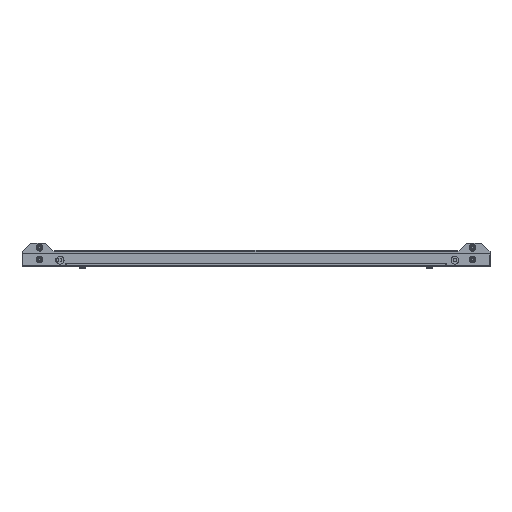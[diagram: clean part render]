
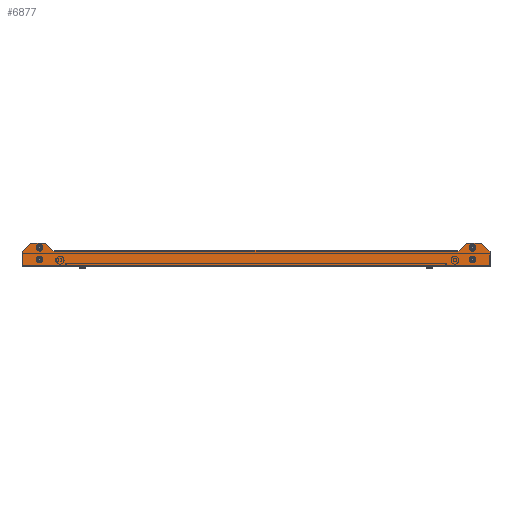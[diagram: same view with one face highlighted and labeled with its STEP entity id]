
A CAD part, front view. The second image highlights one B-rep face of the part: STEP entity #6877.
In plain terms, the highlighted planar face has unit normal (0, -1, 0).
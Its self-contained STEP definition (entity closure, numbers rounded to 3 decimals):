
#6841 = EDGE_CURVE('',#6842,#6844,#6846,.T.);
#6842 = VERTEX_POINT('',#6843);
#6843 = CARTESIAN_POINT('',(-500.,-2.5,3.5));
#6844 = VERTEX_POINT('',#6845);
#6845 = CARTESIAN_POINT('',(-500.,-2.5,31.5));
#6846 = LINE('',#6847,#6848);
#6847 = CARTESIAN_POINT('',(-500.,-2.5,0.));
#6848 = VECTOR('',#6849,1.);
#6849 = DIRECTION('',(0.,0.,1.));
#6877 = ADVANCED_FACE('',(#6878,#6889,#6900,#6911,#6922),#7043,.F.);
#6878 = FACE_BOUND('',#6879,.T.);
#6879 = EDGE_LOOP('',(#6880));
#6880 = ORIENTED_EDGE('',*,*,#6881,.F.);
#6881 = EDGE_CURVE('',#6882,#6882,#6884,.T.);
#6882 = VERTEX_POINT('',#6883);
#6883 = CARTESIAN_POINT('',(462.5,-2.5,44.75));
#6884 = CIRCLE('',#6885,4.75);
#6885 = AXIS2_PLACEMENT_3D('',#6886,#6887,#6888);
#6886 = CARTESIAN_POINT('',(462.5,-2.5,40.));
#6887 = DIRECTION('',(0.,-1.,0.));
#6888 = DIRECTION('',(0.,0.,1.));
#6889 = FACE_BOUND('',#6890,.T.);
#6890 = EDGE_LOOP('',(#6891));
#6891 = ORIENTED_EDGE('',*,*,#6892,.F.);
#6892 = EDGE_CURVE('',#6893,#6893,#6895,.T.);
#6893 = VERTEX_POINT('',#6894);
#6894 = CARTESIAN_POINT('',(462.5,-2.5,19.75));
#6895 = CIRCLE('',#6896,4.75);
#6896 = AXIS2_PLACEMENT_3D('',#6897,#6898,#6899);
#6897 = CARTESIAN_POINT('',(462.5,-2.5,15.));
#6898 = DIRECTION('',(0.,-1.,0.));
#6899 = DIRECTION('',(0.,0.,1.));
#6900 = FACE_BOUND('',#6901,.T.);
#6901 = EDGE_LOOP('',(#6902));
#6902 = ORIENTED_EDGE('',*,*,#6903,.F.);
#6903 = EDGE_CURVE('',#6904,#6904,#6906,.T.);
#6904 = VERTEX_POINT('',#6905);
#6905 = CARTESIAN_POINT('',(-462.5,-2.5,19.75));
#6906 = CIRCLE('',#6907,4.75);
#6907 = AXIS2_PLACEMENT_3D('',#6908,#6909,#6910);
#6908 = CARTESIAN_POINT('',(-462.5,-2.5,15.));
#6909 = DIRECTION('',(0.,-1.,0.));
#6910 = DIRECTION('',(0.,0.,1.));
#6911 = FACE_BOUND('',#6912,.T.);
#6912 = EDGE_LOOP('',(#6913));
#6913 = ORIENTED_EDGE('',*,*,#6914,.F.);
#6914 = EDGE_CURVE('',#6915,#6915,#6917,.T.);
#6915 = VERTEX_POINT('',#6916);
#6916 = CARTESIAN_POINT('',(-462.5,-2.5,44.75));
#6917 = CIRCLE('',#6918,4.75);
#6918 = AXIS2_PLACEMENT_3D('',#6919,#6920,#6921);
#6919 = CARTESIAN_POINT('',(-462.5,-2.5,40.));
#6920 = DIRECTION('',(0.,-1.,0.));
#6921 = DIRECTION('',(0.,0.,1.));
#6922 = FACE_BOUND('',#6923,.T.);
#6923 = EDGE_LOOP('',(#6924,#6934,#6942,#6950,#6958,#6966,#6974,#6982,
    #6990,#6998,#7006,#7014,#7020,#7021,#7029,#7037));
#6924 = ORIENTED_EDGE('',*,*,#6925,.F.);
#6925 = EDGE_CURVE('',#6926,#6928,#6930,.T.);
#6926 = VERTEX_POINT('',#6927);
#6927 = CARTESIAN_POINT('',(500.,-2.5,31.5));
#6928 = VERTEX_POINT('',#6929);
#6929 = CARTESIAN_POINT('',(500.,-2.5,3.5));
#6930 = LINE('',#6931,#6932);
#6931 = CARTESIAN_POINT('',(500.,-2.5,0.));
#6932 = VECTOR('',#6933,1.);
#6933 = DIRECTION('',(-0.,-0.,-1.));
#6934 = ORIENTED_EDGE('',*,*,#6935,.T.);
#6935 = EDGE_CURVE('',#6926,#6936,#6938,.T.);
#6936 = VERTEX_POINT('',#6937);
#6937 = CARTESIAN_POINT('',(481.5,-2.5,50.));
#6938 = LINE('',#6939,#6940);
#6939 = CARTESIAN_POINT('',(481.5,-2.5,50.));
#6940 = VECTOR('',#6941,1.);
#6941 = DIRECTION('',(-0.707,-0.,0.707));
#6942 = ORIENTED_EDGE('',*,*,#6943,.F.);
#6943 = EDGE_CURVE('',#6944,#6936,#6946,.T.);
#6944 = VERTEX_POINT('',#6945);
#6945 = CARTESIAN_POINT('',(450.,-2.5,50.));
#6946 = LINE('',#6947,#6948);
#6947 = CARTESIAN_POINT('',(500.,-2.5,50.));
#6948 = VECTOR('',#6949,1.);
#6949 = DIRECTION('',(1.,-0.,0.));
#6950 = ORIENTED_EDGE('',*,*,#6951,.T.);
#6951 = EDGE_CURVE('',#6944,#6952,#6954,.T.);
#6952 = VERTEX_POINT('',#6953);
#6953 = CARTESIAN_POINT('',(431.5,-2.5,31.5));
#6954 = LINE('',#6955,#6956);
#6955 = CARTESIAN_POINT('',(200.,-2.5,-200.));
#6956 = VECTOR('',#6957,1.);
#6957 = DIRECTION('',(-0.707,0.,-0.707));
#6958 = ORIENTED_EDGE('',*,*,#6959,.F.);
#6959 = EDGE_CURVE('',#6960,#6952,#6962,.T.);
#6960 = VERTEX_POINT('',#6961);
#6961 = CARTESIAN_POINT('',(430.,-2.5,31.5));
#6962 = LINE('',#6963,#6964);
#6963 = CARTESIAN_POINT('',(-450.,-2.5,31.5));
#6964 = VECTOR('',#6965,1.);
#6965 = DIRECTION('',(1.,0.,0.));
#6966 = ORIENTED_EDGE('',*,*,#6967,.T.);
#6967 = EDGE_CURVE('',#6960,#6968,#6970,.T.);
#6968 = VERTEX_POINT('',#6969);
#6969 = CARTESIAN_POINT('',(430.,-2.5,35.));
#6970 = LINE('',#6971,#6972);
#6971 = CARTESIAN_POINT('',(430.,-2.5,31.5));
#6972 = VECTOR('',#6973,1.);
#6973 = DIRECTION('',(-0.,-0.,1.));
#6974 = ORIENTED_EDGE('',*,*,#6975,.F.);
#6975 = EDGE_CURVE('',#6976,#6968,#6978,.T.);
#6976 = VERTEX_POINT('',#6977);
#6977 = CARTESIAN_POINT('',(-430.,-2.5,35.));
#6978 = LINE('',#6979,#6980);
#6979 = CARTESIAN_POINT('',(0.,-2.5,35.));
#6980 = VECTOR('',#6981,1.);
#6981 = DIRECTION('',(1.,-0.,-0.));
#6982 = ORIENTED_EDGE('',*,*,#6983,.F.);
#6983 = EDGE_CURVE('',#6984,#6976,#6986,.T.);
#6984 = VERTEX_POINT('',#6985);
#6985 = CARTESIAN_POINT('',(-430.,-2.5,31.5));
#6986 = LINE('',#6987,#6988);
#6987 = CARTESIAN_POINT('',(-430.,-2.5,0.));
#6988 = VECTOR('',#6989,1.);
#6989 = DIRECTION('',(0.,0.,1.));
#6990 = ORIENTED_EDGE('',*,*,#6991,.F.);
#6991 = EDGE_CURVE('',#6992,#6984,#6994,.T.);
#6992 = VERTEX_POINT('',#6993);
#6993 = CARTESIAN_POINT('',(-431.5,-2.5,31.5));
#6994 = LINE('',#6995,#6996);
#6995 = CARTESIAN_POINT('',(-450.,-2.5,31.5));
#6996 = VECTOR('',#6997,1.);
#6997 = DIRECTION('',(1.,0.,0.));
#6998 = ORIENTED_EDGE('',*,*,#6999,.T.);
#6999 = EDGE_CURVE('',#6992,#7000,#7002,.T.);
#7000 = VERTEX_POINT('',#7001);
#7001 = CARTESIAN_POINT('',(-450.,-2.5,50.));
#7002 = LINE('',#7003,#7004);
#7003 = CARTESIAN_POINT('',(-200.,-2.5,-200.));
#7004 = VECTOR('',#7005,1.);
#7005 = DIRECTION('',(-0.707,-0.,0.707));
#7006 = ORIENTED_EDGE('',*,*,#7007,.F.);
#7007 = EDGE_CURVE('',#7008,#7000,#7010,.T.);
#7008 = VERTEX_POINT('',#7009);
#7009 = CARTESIAN_POINT('',(-481.5,-2.5,50.));
#7010 = LINE('',#7011,#7012);
#7011 = CARTESIAN_POINT('',(-500.,-2.5,50.));
#7012 = VECTOR('',#7013,1.);
#7013 = DIRECTION('',(1.,0.,0.));
#7014 = ORIENTED_EDGE('',*,*,#7015,.T.);
#7015 = EDGE_CURVE('',#7008,#6844,#7016,.T.);
#7016 = LINE('',#7017,#7018);
#7017 = CARTESIAN_POINT('',(-500.,-2.5,31.5));
#7018 = VECTOR('',#7019,1.);
#7019 = DIRECTION('',(-0.707,-0.,-0.707));
#7020 = ORIENTED_EDGE('',*,*,#6841,.F.);
#7021 = ORIENTED_EDGE('',*,*,#7022,.T.);
#7022 = EDGE_CURVE('',#6842,#7023,#7025,.T.);
#7023 = VERTEX_POINT('',#7024);
#7024 = CARTESIAN_POINT('',(-500.,-2.5,0.));
#7025 = LINE('',#7026,#7027);
#7026 = CARTESIAN_POINT('',(-500.,-2.5,3.5));
#7027 = VECTOR('',#7028,1.);
#7028 = DIRECTION('',(0.,-0.,-1.));
#7029 = ORIENTED_EDGE('',*,*,#7030,.F.);
#7030 = EDGE_CURVE('',#7031,#7023,#7033,.T.);
#7031 = VERTEX_POINT('',#7032);
#7032 = CARTESIAN_POINT('',(500.,-2.5,0.));
#7033 = LINE('',#7034,#7035);
#7034 = CARTESIAN_POINT('',(0.,-2.5,0.));
#7035 = VECTOR('',#7036,1.);
#7036 = DIRECTION('',(-1.,-0.,0.));
#7037 = ORIENTED_EDGE('',*,*,#7038,.F.);
#7038 = EDGE_CURVE('',#6928,#7031,#7039,.T.);
#7039 = LINE('',#7040,#7041);
#7040 = CARTESIAN_POINT('',(500.,-2.5,0.));
#7041 = VECTOR('',#7042,1.);
#7042 = DIRECTION('',(0.,0.,-1.));
#7043 = PLANE('',#7044);
#7044 = AXIS2_PLACEMENT_3D('',#7045,#7046,#7047);
#7045 = CARTESIAN_POINT('',(0.,-2.5,0.));
#7046 = DIRECTION('',(0.,1.,0.));
#7047 = DIRECTION('',(0.,-0.,1.));
